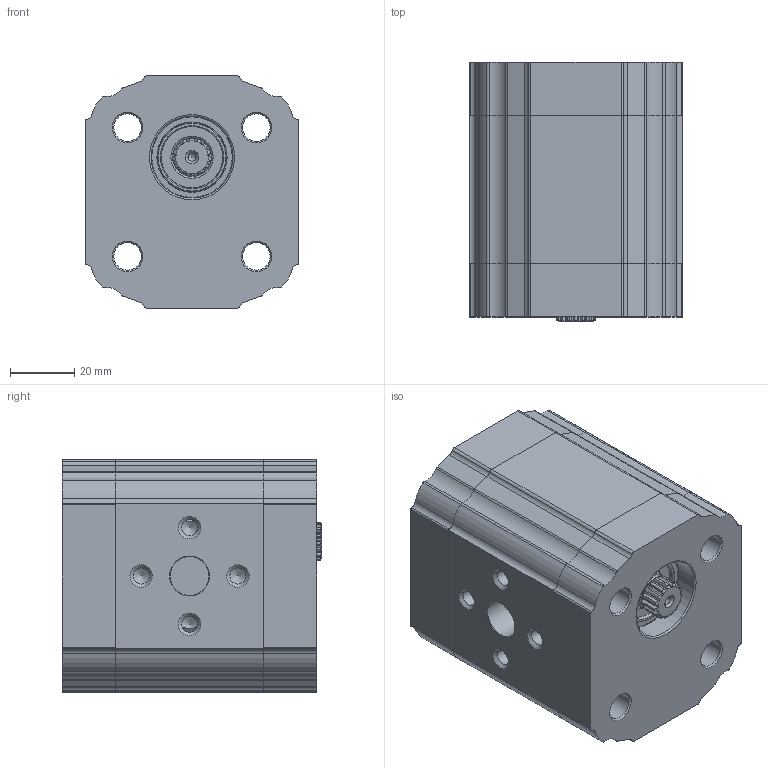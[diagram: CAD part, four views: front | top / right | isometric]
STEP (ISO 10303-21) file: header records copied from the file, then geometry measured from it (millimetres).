
FILE_DESCRIPTION(/* description */ ('Unknown'),/* implementation_level */ '2;1');
FILE_NAME(/* name */ 'X1I2074SIID',/* time_stamp */ '2026-05-27T08:41:35+02:00',/* author */ ('Unknown'),/* organization */ ('Unknown'),/* preprocessor_version */ 'ST-DEVELOPER v16.7',/* originating_system */ 'Solid Edge',/* authorisation */ 'Unknown');
FILE_SCHEMA (('AUTOMOTIVE_DESIGN {1 0 10303 214 3 1 1}'));
Length unit declared in the file: millimetre
Products named in the file (5): X1I2074SIID; X1I74; 1S; X1IIH46; XI102-D
Assembly tree (4 placements, depth 2):
  X1I2074SIID
    X1I74
    1S
    X1IIH46
    XI102-D
Bounding box: 66 x 80.5 x 72 mm (x, y, z)
Volume: 307619.1 mm3; surface area: 59237.3 mm2
Topology: 5 solids, 5 shells, 438 faces, 1222 edges, 801 vertices
Faces by surface type: cylinder 257, cone 115, plane 51, torus 15
Full cylindrical faces by diameter (mm): 2.5 x2, 3 x4, 5 x8, 8.5 x8, 9 x2, 9.9 x2, 10.5 x2, 11.965 x2, 12 x2, 13.107 x1, 14.692 x1, 17.135 x1, 19 x2, 21.4 x2, 25.4 x2
Entity records: 16133 total; most frequent: CARTESIAN_POINT 2927, DIRECTION 2318, ORIENTED_EDGE 2128, EDGE_CURVE 1064, AXIS2_PLACEMENT_3D 1011, VERTEX_POINT 766, FACE_BOUND 604, EDGE_LOOP 590
